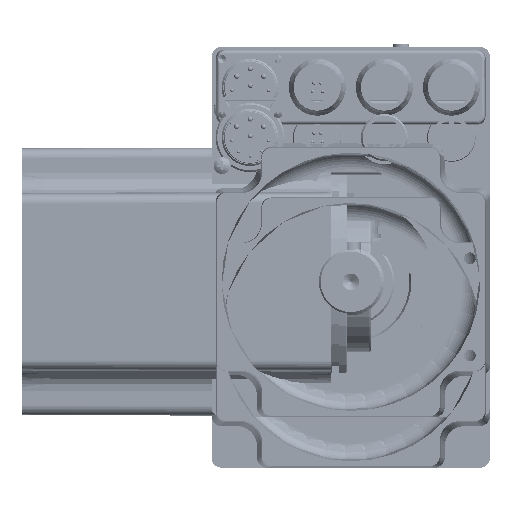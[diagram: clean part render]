
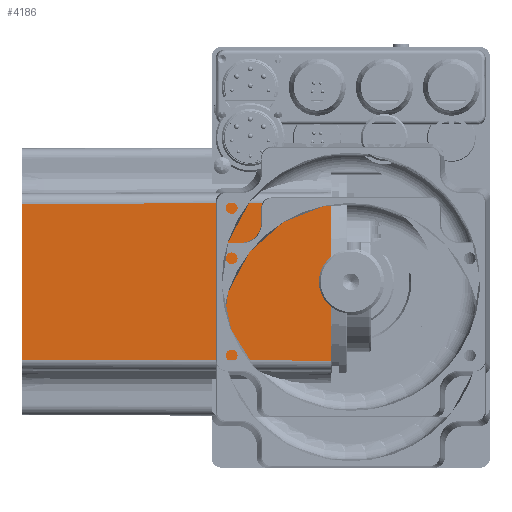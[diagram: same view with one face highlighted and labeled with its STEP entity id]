
A CAD part, front view. The second image highlights one B-rep face of the part: STEP entity #4186.
In plain terms, the highlighted planar face has unit normal (-0.003, -1, 0).
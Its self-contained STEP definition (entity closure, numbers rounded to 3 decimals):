
#4186 = ADVANCED_FACE( '', ( #9034 ), #9035, .T. );
#9034 = FACE_OUTER_BOUND( '', #23324, .T. );
#9035 = PLANE( '', #23325 );
#23324 = EDGE_LOOP( '', ( #34506, #34507, #34508, #34509 ) );
#23325 = AXIS2_PLACEMENT_3D( '', #34510, #34511, #34512 );
#34506 = ORIENTED_EDGE( '', *, *, #42368, .T. );
#34507 = ORIENTED_EDGE( '', *, *, #42390, .T. );
#34508 = ORIENTED_EDGE( '', *, *, #42391, .T. );
#34509 = ORIENTED_EDGE( '', *, *, #42392, .T. );
#34510 = CARTESIAN_POINT( '', ( -5., -40., 0. ) );
#34511 = DIRECTION( '', ( -0.003, -1., 0. ) );
#34512 = DIRECTION( '', ( 1., -0.003, 0. ) );
#42368 = EDGE_CURVE( '', #49694, #49692, #49695, .T. );
#42390 = EDGE_CURVE( '', #49692, #49721, #49722, .T. );
#42391 = EDGE_CURVE( '', #49721, #49723, #49724, .T. );
#42392 = EDGE_CURVE( '', #49723, #49694, #49725, .T. );
#49692 = VERTEX_POINT( '', #70288 );
#49694 = VERTEX_POINT( '', #70290 );
#49695 = LINE( '', #70291, #70292 );
#49721 = VERTEX_POINT( '', #70353 );
#49722 = LINE( '', #70354, #70355 );
#49723 = VERTEX_POINT( '', #70356 );
#49724 = LINE( '', #70357, #70358 );
#49725 = LINE( '', #70359, #70360 );
#70288 = CARTESIAN_POINT( '', ( -6., -39.997, -23.497 ) );
#70290 = CARTESIAN_POINT( '', ( -98., -39.729, -23.229 ) );
#70291 = CARTESIAN_POINT( '', ( -4.991, -40., -23.5 ) );
#70292 = VECTOR( '', #78485, 1000. );
#70353 = CARTESIAN_POINT( '', ( -6., -39.997, 23.497 ) );
#70354 = CARTESIAN_POINT( '', ( -6., -39.997, 0. ) );
#70355 = VECTOR( '', #78503, 1000. );
#70356 = CARTESIAN_POINT( '', ( -98., -39.729, 23.229 ) );
#70357 = CARTESIAN_POINT( '', ( -98.991, -39.727, 23.227 ) );
#70358 = VECTOR( '', #78504, 1000. );
#70359 = CARTESIAN_POINT( '', ( -98., -39.729, 0. ) );
#70360 = VECTOR( '', #78505, 1000. );
#78485 = DIRECTION( '', ( 1., -0.003, -0.003 ) );
#78503 = DIRECTION( '', ( 0., 0., 1. ) );
#78504 = DIRECTION( '', ( -1., 0.003, -0.003 ) );
#78505 = DIRECTION( '', ( 0., 0., -1. ) );
